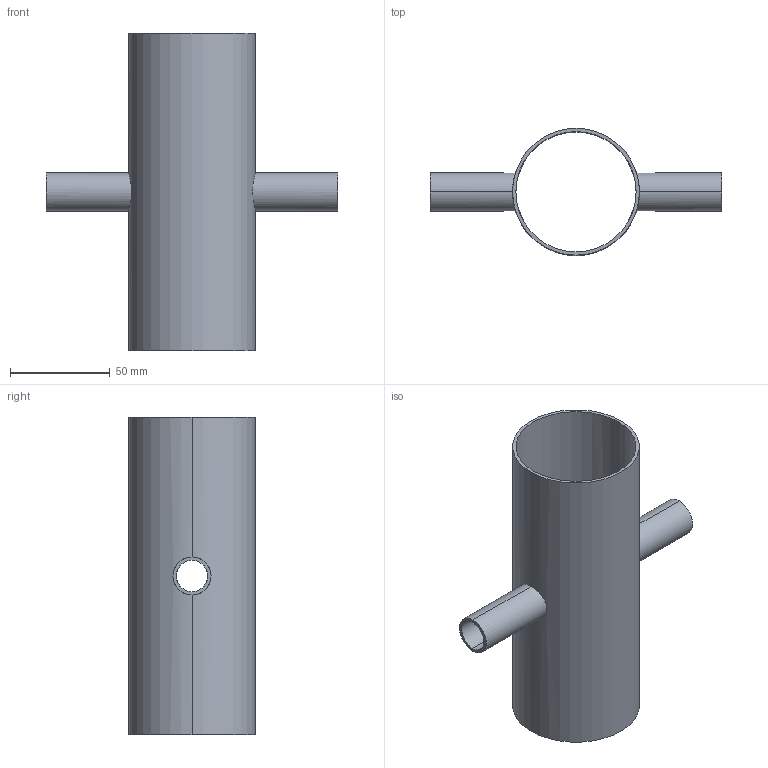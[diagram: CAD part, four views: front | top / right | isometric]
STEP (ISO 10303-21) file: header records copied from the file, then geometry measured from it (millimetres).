
FILE_DESCRIPTION (( 'STEP AP214' ), '1' );
FILE_NAME ('TE9RWWWW6L2.5x.75-...STEP', '2016-05-22T04:18:32', ( 'eran' ), ( '' ), 'SwSTEP 2.0', 'SolidWorks 2016', '' );
FILE_SCHEMA (( 'AUTOMOTIVE_DESIGN' ));
Length unit declared in the file: millimetre
Products named in the file (1): TE9RWWWW6L2.5x.75-..
Bounding box: 146.05 x 63.5 x 158.75 mm (x, y, z)
Volume: 57837.7 mm3; surface area: 70870.4 mm2
Topology: 1 solids, 1 shells, 16 faces, 40 edges, 24 vertices
Faces by surface type: cylinder 12, plane 4
Entity records: 866 total; most frequent: CARTESIAN_POINT 441, DIRECTION 82, ORIENTED_EDGE 80, EDGE_CURVE 40, AXIS2_PLACEMENT_3D 33, VERTEX_POINT 24, EDGE_LOOP 20, FACE_OUTER_BOUND 16
